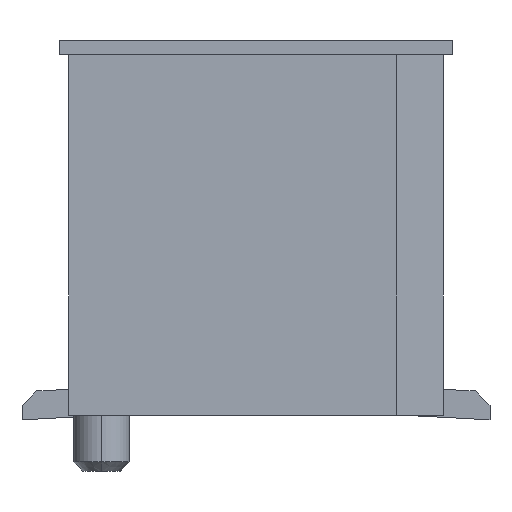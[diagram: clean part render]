
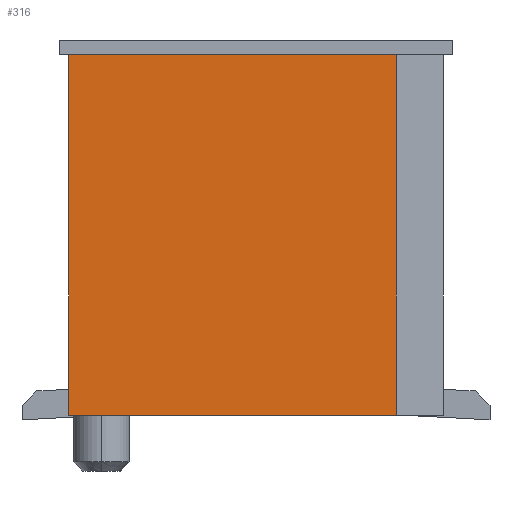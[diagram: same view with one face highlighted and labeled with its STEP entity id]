
A CAD part, left-side view. The second image highlights one B-rep face of the part: STEP entity #316.
In plain terms, the highlighted planar face has unit normal (-1, 0, 0).
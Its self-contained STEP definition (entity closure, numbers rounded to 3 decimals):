
#277=CARTESIAN_POINT('Axis2P3D Location',(-3.35,0.,0.)) ;
#282=CARTESIAN_POINT('Line Origine',(-3.35,-1.5,1.925)) ;
#286=CARTESIAN_POINT('Vertex',(-3.35,-1.5,3.85)) ;
#288=CARTESIAN_POINT('Vertex',(-3.35,-1.5,0.)) ;
#291=CARTESIAN_POINT('Line Origine',(-3.35,0.25,3.85)) ;
#295=CARTESIAN_POINT('Vertex',(-3.35,2.,3.85)) ;
#298=CARTESIAN_POINT('Line Origine',(-3.35,2.,1.925)) ;
#302=CARTESIAN_POINT('Vertex',(-3.35,2.,0.)) ;
#305=CARTESIAN_POINT('Line Origine',(-3.35,0.25,0.)) ;
#278=DIRECTION('Axis2P3D Direction',(1.,0.,0.)) ;
#279=DIRECTION('Axis2P3D XDirection',(0.,1.,0.)) ;
#283=DIRECTION('Vector Direction',(0.,0.,-1.)) ;
#292=DIRECTION('Vector Direction',(0.,-1.,0.)) ;
#299=DIRECTION('Vector Direction',(0.,0.,1.)) ;
#306=DIRECTION('Vector Direction',(0.,1.,0.)) ;
#280=AXIS2_PLACEMENT_3D('Plane Axis2P3D',#277,#278,#279) ;
#311=ORIENTED_EDGE('',*,*,#290,.F.) ;
#312=ORIENTED_EDGE('',*,*,#297,.F.) ;
#313=ORIENTED_EDGE('',*,*,#304,.F.) ;
#314=ORIENTED_EDGE('',*,*,#309,.F.) ;
#284=VECTOR('Line Direction',#283,1.) ;
#293=VECTOR('Line Direction',#292,1.) ;
#300=VECTOR('Line Direction',#299,1.) ;
#307=VECTOR('Line Direction',#306,1.) ;
#316=ADVANCED_FACE('\X2\96F64EF651E04F554F53\X0\',(#315),#281,.F.) ;
#290=EDGE_CURVE('',#287,#289,#285,.T.) ;
#297=EDGE_CURVE('',#296,#287,#294,.T.) ;
#304=EDGE_CURVE('',#303,#296,#301,.T.) ;
#309=EDGE_CURVE('',#289,#303,#308,.T.) ;
#310=EDGE_LOOP('',(#311,#312,#313,#314)) ;
#315=FACE_OUTER_BOUND('',#310,.T.) ;
#285=LINE('Line',#282,#284) ;
#294=LINE('Line',#291,#293) ;
#301=LINE('Line',#298,#300) ;
#308=LINE('Line',#305,#307) ;
#281=PLANE('Plane',#280) ;
#287=VERTEX_POINT('',#286) ;
#289=VERTEX_POINT('',#288) ;
#296=VERTEX_POINT('',#295) ;
#303=VERTEX_POINT('',#302) ;
